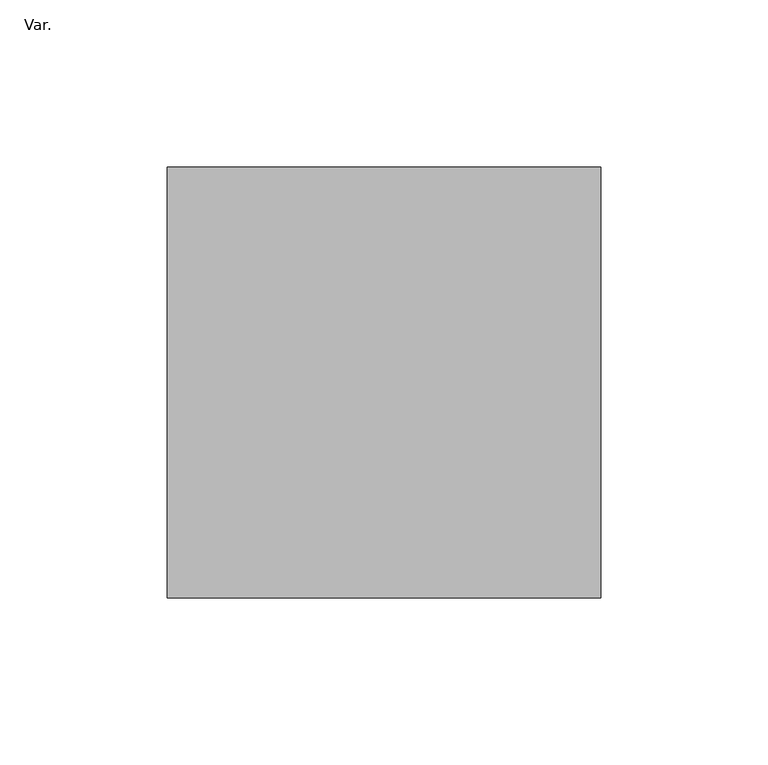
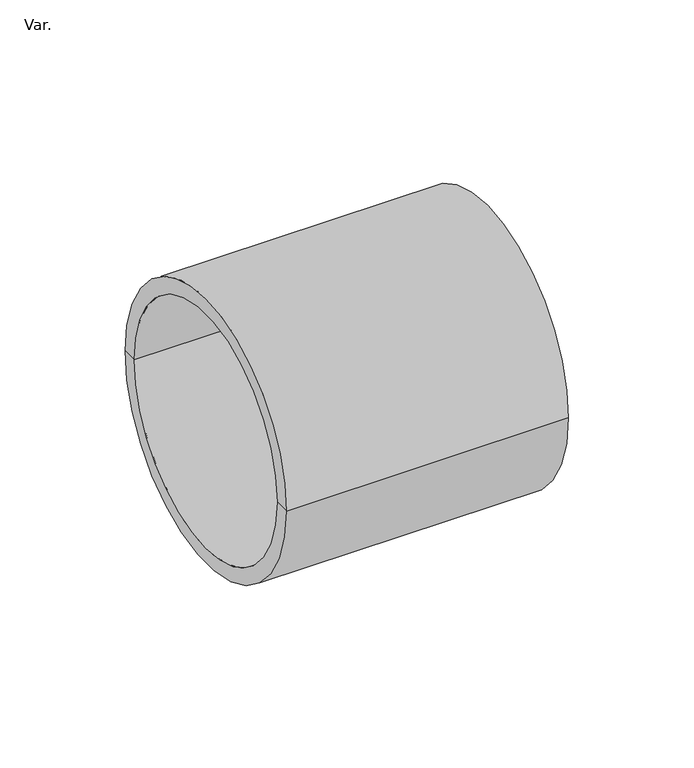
"""IFC4 building model written with IfcOpenShell, lengths in millimetres: pipe fitting geometry, PlastigamaWavin_Unionesdetubería_Cédula40_ZNoUsarUnión : Var.."""

import ifcopenshell
import ifcopenshell.guid

model = None  # the IFC model being written
_history = None  # IfcOwnerHistory: only IFC2X3 demands one
_inside = {}  # id of a spatial element -> (the spatial element, [elements in it])
_under = {}  # id of a project, library or spatial element -> (it, [spatial elements below it])
_declared = {}  # id of a project -> (the project, [libraries it declares])
_typed = {}  # id of a type object -> (the type object, [elements of that type])
_made_of = {}  # id of a material, layer set ... -> (it, [elements and type objects made of it])


def new_model(schema):
    """Start an empty IFC model of exactly this schema.

    Asked for "IFC4X3", IfcOpenShell would pick the latest addendum, in which some entities
    have other attributes; the version numbers below select the first issue.
    IFC2X3 requires an IfcOwnerHistory on every rooted entity: one is made here for all.
    """
    global model, _history
    if schema == "IFC4X3":
        model = ifcopenshell.file(schema_version=(4, 3, 0, 0))
    else:
        model = ifcopenshell.file(schema=schema)
    _inside.clear()
    _under.clear()
    _declared.clear()
    _typed.clear()
    _made_of.clear()
    _history = None
    if model.schema == "IFC2X3":
        org = make("IfcOrganization", Name="unknown")
        user = make(
            "IfcPersonAndOrganization",
            ThePerson=make("IfcPerson", FamilyName="unknown"),
            TheOrganization=org,
        )
        app = make(
            "IfcApplication",
            ApplicationDeveloper=org,
            Version="unknown",
            ApplicationFullName="unknown",
            ApplicationIdentifier="unknown",
        )
        _history = make(
            "IfcOwnerHistory",
            OwningUser=user,
            OwningApplication=app,
            ChangeAction="ADDED",
            CreationDate=0,
        )
    return model


def make(cls, **values):
    """One entity of the class cls with the attributes given. An attribute that is None is left unset."""
    return model.create_entity(
        cls, **{name: value for name, value in values.items() if value is not None}
    )


def rooted(cls, **values):
    """An entity with a GlobalId (a new one), such as an element, a storey or a relation."""
    return make(cls, GlobalId=ifcopenshell.guid.new(), OwnerHistory=_history, **values)


def si_unit(unit_type, name, prefix=None):
    """IfcSIUnit, for example si_unit("LENGTHUNIT", "METRE", prefix="MILLI")."""
    return make("IfcSIUnit", UnitType=unit_type, Prefix=prefix, Name=name)


def assignment(units):
    """IfcUnitAssignment: the units of a project."""
    return None if units is None else make("IfcUnitAssignment", Units=units)


def point(xyz):
    """IfcCartesianPoint."""
    return None if xyz is None else make("IfcCartesianPoint", Coordinates=xyz)


def direction(xyz):
    """IfcDirection."""
    return None if xyz is None else make("IfcDirection", DirectionRatios=xyz)


def frame(location, z_axis=None, x_axis=None):
    """IfcAxis2Placement3D, a coordinate frame: its origin and axes. An axis left out is left unset."""
    return make(
        "IfcAxis2Placement3D",
        Location=point(location),
        Axis=direction(z_axis),
        RefDirection=direction(x_axis),
    )


def origin():
    """The frame at (0, 0, 0) with its axes left unset."""
    return frame((0.0, 0.0, 0.0))


def place(relative_to, where):
    """IfcLocalPlacement: puts the frame where relative to a parent placement (None: the world)."""
    return make(
        "IfcLocalPlacement", PlacementRelTo=relative_to, RelativePlacement=where
    )


def context(
    kind, dimensions, precision=None, world=None, true_north=None, identifier=None
):
    """IfcGeometricRepresentationContext, for example the 3D "Model" context."""
    return make(
        "IfcGeometricRepresentationContext",
        ContextIdentifier=identifier,
        ContextType=kind,
        CoordinateSpaceDimension=dimensions,
        Precision=precision,
        WorldCoordinateSystem=world,
        TrueNorth=true_north,
    )


def project(units=None, contexts=None):
    """IfcProject with its units and contexts."""
    return rooted(
        "IfcProject",
        Name="project",
        RepresentationContexts=contexts,
        UnitsInContext=assignment(units),
    )


def spatial(cls, under=None, at=None, **own):
    """A site, building, storey or space (cls), placed at a placement, below another one or the project."""
    s = rooted(cls, ObjectPlacement=at, **own)
    if under is not None:
        _under.setdefault(under.id(), (under, []))[1].append(s)
    return s


def polyline(points):
    """IfcPolyline through the points."""
    return make("IfcPolyline", Points=[point(p) for p in points])


def circle_curve(where, radius):
    """IfcCircle in the frame where."""
    return make("IfcCircle", Position=where, Radius=radius)


def shape(context_of_items, identifier, shape_type, items):
    """IfcShapeRepresentation: the items that make up one representation, for example the "Body"."""
    return make(
        "IfcShapeRepresentation",
        ContextOfItems=context_of_items,
        RepresentationIdentifier=identifier,
        RepresentationType=shape_type,
        Items=items,
    )


def source(mapping_origin, context_of_items, identifier, shape_type, items):
    """IfcRepresentationMap: a shape defined once, which mapped items show again and again."""
    return make(
        "IfcRepresentationMap",
        MappingOrigin=mapping_origin,
        MappedRepresentation=shape(context_of_items, identifier, shape_type, items),
    )


def transform(
    local_origin,
    x_axis=None,
    y_axis=None,
    z_axis=None,
    scale=None,
    scale2=None,
    scale3=None,
    uniform=True,
):
    """IfcCartesianTransformationOperator3D, or its non-uniform kind. x_axis, y_axis, z_axis: its Axis1, 2, 3."""
    if uniform:
        return make(
            "IfcCartesianTransformationOperator3D",
            Axis1=direction(x_axis),
            Axis2=direction(y_axis),
            LocalOrigin=point(local_origin),
            Scale=scale,
            Axis3=direction(z_axis),
        )
    return make(
        "IfcCartesianTransformationOperator3DnonUniform",
        Axis1=direction(x_axis),
        Axis2=direction(y_axis),
        LocalOrigin=point(local_origin),
        Scale=scale,
        Axis3=direction(z_axis),
        Scale2=scale2,
        Scale3=scale3,
    )


def mapped(mapping_source, mapping_target):
    """IfcMappedItem: shows the shape of a source again, moved by a transform."""
    return make(
        "IfcMappedItem", MappingSource=mapping_source, MappingTarget=mapping_target
    )


def made_of(thing, what):
    """Note that an element or type object is made of a material, layer set ...; save() writes the relation."""
    if what is not None:
        _made_of.setdefault(what.id(), (what, []))[1].append(thing)
    return thing


def element(
    cls,
    number,
    at=None,
    inside=None,
    cuts=None,
    type_object=None,
    material=None,
    context=None,
    identifier="Body",
    shape_type=None,
    held_by="IfcProductDefinitionShape",
    body=None,
    shapes=None,
    **own,
):
    """One element of the class cls, such as IfcWall. Its Tag is "e" and its number.

    at: its placement. inside: the storey or other place that contains it. cuts: it is an
    opening in that element (IfcRelVoidsElement). A single representation is given by context,
    identifier, shape_type and body (its items); several are given by shapes. held_by: the class
    of the entity that holds the representations. save() writes the other relations.
    """
    e = rooted(cls, Tag="e%d" % number, ObjectPlacement=at, **own)
    if body is not None:
        shapes = [shape(context, identifier, shape_type, body)]
    if shapes is not None:
        e.Representation = make(held_by, Representations=shapes)
    if inside is not None:
        _inside.setdefault(inside.id(), (inside, []))[1].append(e)
    if cuts is not None:
        rooted(
            "IfcRelVoidsElement", RelatingBuildingElement=cuts, RelatedOpeningElement=e
        )
    if type_object is not None:
        _typed.setdefault(type_object.id(), (type_object, []))[1].append(e)
    return made_of(e, material)


def aggregate(whole, parts):
    """IfcRelAggregates: a whole, such as a stair, and the parts it consists of."""
    return rooted("IfcRelAggregates", RelatingObject=whole, RelatedObjects=parts)


def save(model, path):
    """Write the relations noted so far, then the file.

    IfcRelAggregates (storeys below a building ...), IfcRelContainedInSpatialStructure (elements
    in a storey), IfcRelDefinesByType, IfcRelAssociatesMaterial and IfcRelDeclares: one each for
    every whole, place, type object, material and project.
    """
    for whole, parts in _under.values():
        aggregate(whole, parts)
    for where, things in _inside.values():
        rooted(
            "IfcRelContainedInSpatialStructure",
            RelatedElements=things,
            RelatingStructure=where,
        )
    for kind, things in _typed.values():
        rooted("IfcRelDefinesByType", RelatedObjects=things, RelatingType=kind)
    for what, things in _made_of.values():
        rooted("IfcRelAssociatesMaterial", RelatedObjects=things, RelatingMaterial=what)
    for by, libraries in _declared.values():
        rooted("IfcRelDeclares", RelatingContext=by, RelatedDefinitions=libraries)
    model.write(path)


def plane_surface(at):
    """IfcPlane: the flat surface through the origin of the frame at, square to its z axis."""
    return make("IfcPlane", Position=at)


def cylinder_surface(at, radius):
    """IfcCylindricalSurface: all points at the distance radius from the z axis of the frame at."""
    return make("IfcCylindricalSurface", Position=at, Radius=radius)


def revolved_surface(curve, axis_point, axis_direction):
    """IfcSurfaceOfRevolution: the curve turned about the line through axis_point along axis_direction."""
    return make(
        "IfcSurfaceOfRevolution",
        SweptCurve=make("IfcArbitraryOpenProfileDef", ProfileType="CURVE", Curve=curve),
        AxisPosition=make("IfcAxis1Placement", Location=point(axis_point), Axis=direction(axis_direction)),
    )


def advanced_brep(points, edges, surfaces, faces):
    """IfcAdvancedBrep: a solid bounded by faces that lie on surfaces and meet in shared edges.

    An edge is (start, end): straight between two places in points (the first is 0);
    or (start, end, curve); or (start, end, curve, False) where it runs against its curve.
    A face is (place in surfaces, loops), or (place, loops, False) where it looks against
    its surface's normal. A loop lists edges by number (the first is 1), with a minus sign
    where the edge is run from its end to its start. The first loop is the outer one.
    """
    corners = [point(p) for p in points]
    vertices = [make("IfcVertexPoint", VertexGeometry=c) for c in corners]
    made = []
    for start, end, *more in edges:
        made.append(
            make(
                "IfcEdgeCurve",
                EdgeStart=vertices[start],
                EdgeEnd=vertices[end],
                EdgeGeometry=more[0] if more else make("IfcPolyline", Points=[corners[start], corners[end]]),
                SameSense=more[1] if len(more) > 1 else True,
            )
        )
    hull = []
    for where, loops, *sense in faces:
        bounds = []
        for j, loop in enumerate(loops):
            ring = [make("IfcOrientedEdge", EdgeElement=made[abs(k) - 1], Orientation=k > 0) for k in loop]
            bounds.append(
                make(
                    "IfcFaceOuterBound" if j == 0 else "IfcFaceBound",
                    Bound=make("IfcEdgeLoop", EdgeList=ring),
                    Orientation=True,
                )
            )
        hull.append(make("IfcAdvancedFace", Bounds=bounds, FaceSurface=surfaces[where], SameSense=sense[0] if sense else True))
    return make("IfcAdvancedBrep", Outer=make("IfcClosedShell", CfsFaces=hull))


def var_8be2cb27(model_context):
    return source(origin(), model_context, "Body", "AdvancedBrep", [
        advanced_brep(
        [(-2.425, -57.15, 0.0), (-2.425, 57.15, 0.0), (-64.925, 57.15, 0.0), (-64.925, -57.15, 0.0), (-2.425, 0.0, 0.0), (2.425, -57.15, 0.0), (2.425, 57.15, 0.0), (2.425, 0.0, 0.0), (64.925, -57.15, 0.0), (64.925, 57.15, 0.0), (64.925, -64.49, 0.0), (64.925, 64.49, 0.0), (-64.925, -64.49, 0.0), (-64.925, 64.49, 0.0)],
        [
            (0, 1, circle_curve(frame((-2.425, 0.0, 0.0), z_axis=(1.0, 0.0, 0.0), x_axis=(0.0, 1.0, 0.0)), 57.15)),
            (1, 2),
            (2, 3, circle_curve(frame((-64.925, 0.0, 0.0), z_axis=(-1.0, 0.0, 0.0), x_axis=(0.0, 1.0, 0.0)), 57.15)),
            (3, 0),
            (1, 0, circle_curve(frame((-2.425, 0.0, 0.0), z_axis=(1.0, 0.0, 0.0), x_axis=(0.0, 1.0, 0.0)), 57.15)),
            (3, 2, circle_curve(frame((-64.925, 0.0, 0.0), z_axis=(-1.0, 0.0, 0.0), x_axis=(0.0, 1.0, 0.0)), 57.15)),
            (4, 1),
            (0, 4),
            (5, 6, circle_curve(frame((2.425, 0.0, 0.0), z_axis=(1.0, 0.0, 0.0), x_axis=(0.0, 1.0, 0.0)), 57.15)),
            (6, 7),
            (7, 5),
            (6, 5, circle_curve(frame((2.425, 0.0, 0.0), z_axis=(1.0, 0.0, 0.0), x_axis=(0.0, 1.0, 0.0)), 57.15)),
            (8, 9, circle_curve(frame((64.925, 0.0, 0.0), z_axis=(1.0, 0.0, 0.0), x_axis=(0.0, 1.0, 0.0)), 57.15)),
            (9, 6),
            (5, 8),
            (9, 8, circle_curve(frame((64.925, 0.0, 0.0), z_axis=(1.0, 0.0, 0.0), x_axis=(0.0, 1.0, 0.0)), 57.15)),
            (10, 11, circle_curve(frame((64.925, 0.0, 0.0), z_axis=(1.0, 0.0, 0.0), x_axis=(0.0, 1.0, 0.0)), 64.49)),
            (11, 9),
            (8, 10),
            (11, 10, circle_curve(frame((64.925, 0.0, 0.0), z_axis=(1.0, 0.0, 0.0), x_axis=(0.0, 1.0, 0.0)), 64.49)),
            (12, 13, circle_curve(frame((-64.925, 0.0, 0.0), z_axis=(1.0, 0.0, 0.0), x_axis=(0.0, 1.0, 0.0)), 64.49)),
            (13, 11),
            (10, 12),
            (13, 12, circle_curve(frame((-64.925, 0.0, 0.0), z_axis=(1.0, 0.0, 0.0), x_axis=(0.0, 1.0, 0.0)), 64.49)),
            (2, 13),
            (12, 3),
        ],
        [
            revolved_surface(polyline([(-64.92499999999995, 57.15, 0.0), (-2.4249999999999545, 57.15, 0.0)]), (2032.425, 0.0, 0.0), (-1.0, 0.0, 0.0)),
            plane_surface(frame((-2.425, 0.0, 0.0), z_axis=(-1.0, 0.0, 0.0), x_axis=(0.0, 1.0, 0.0))),
            plane_surface(frame((2.425, 0.0, 0.0), z_axis=(1.0, 0.0, 0.0), x_axis=(0.0, 1.0, 0.0))),
            revolved_surface(polyline([(2.4249999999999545, 57.15, 0.0), (64.92499999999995, 57.15, 0.0)]), (2032.425, 0.0, 0.0), (-1.0, 0.0, 0.0)),
            plane_surface(frame((64.925, 0.0, 0.0), z_axis=(1.0, 0.0, 0.0), x_axis=(0.0, 1.0, 0.0))),
            cylinder_surface(frame((2032.425, 0.0, 0.0), z_axis=(-1.0, 0.0, 0.0), x_axis=(0.0, 1.0, 0.0)), 64.49),
            plane_surface(frame((-64.925, 0.0, 0.0), z_axis=(-1.0, 0.0, 0.0), x_axis=(0.0, 1.0, 0.0))),
        ],
        [
            (0, [[1, 2, 3, 4]]),
            (0, [[5, -4, 6, -2]]),
            (1, [[7, -1, 8]]),
            (1, [[-8, -5, -7]]),
            (2, [[9, 10, 11]]),
            (2, [[12, -11, -10]]),
            (3, [[13, 14, -9, 15]]),
            (3, [[16, -15, -12, -14]]),
            (4, [[17, 18, -13, 19]]),
            (4, [[20, -19, -16, -18]]),
            (5, [[21, 22, -17, 23]]),
            (5, [[24, -23, -20, -22]]),
            (6, [[-3, 25, -21, 26]]),
            (6, [[-6, -26, -24, -25]]),
        ],
    ),
    ])


if __name__ == "__main__":
    model = new_model("IFC4")
    model_context = context("Model", 3, world=origin())
    ifc_project = project(units=[si_unit("LENGTHUNIT", "METRE", prefix="MILLI")], contexts=[model_context])
    site = spatial("IfcSite", under=ifc_project)
    building = spatial("IfcBuilding", under=site)
    placement = place(None, origin())
    var_shape = var_8be2cb27(model_context)
    element("IfcPipeFitting", 1, ObjectType="PlastigamaWavin_Unionesdetubería_Cédula40_ZNoUsarUnión : Var.", at=placement, inside=building, context=model_context, shape_type="MappedRepresentation", body=[
        mapped(var_shape, transform((0.0, 0.0, 0.0), x_axis=(1.0, 0.0, 0.0), y_axis=(0.0, 1.0, 0.0), z_axis=(0.0, 0.0, 1.0))),
    ])
    save(model, "model.ifc")
